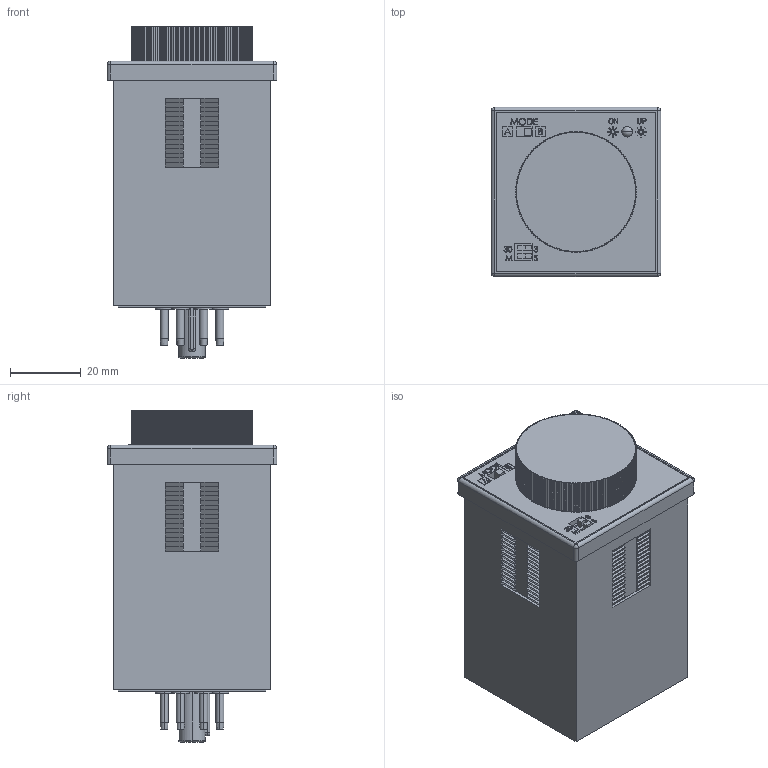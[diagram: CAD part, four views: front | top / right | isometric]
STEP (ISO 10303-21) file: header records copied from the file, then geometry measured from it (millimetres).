
FILE_DESCRIPTION (( 'STEP AP203' ), '1' );
FILE_NAME ('TA-8B.STEP', '2019-02-13T20:29:06', ( '' ), ( '' ), 'SwSTEP 2.0', 'SolidWorks 2012', '' );
FILE_SCHEMA (( 'CONFIG_CONTROL_DESIGN' ));
Products named in the file (1): TA-8B
Bounding box: 47.8 x 47.8 x 93.6 mm (x, y, z)
Volume: 142449.7 mm3; surface area: 23808.7 mm2
Topology: 1 solids, 1 shells, 1786 faces, 4492 edges, 2824 vertices
Faces by surface type: plane 1037, cylinder 505, bspline 216, cone 16, sphere 8, torus 4
Entity records: 65641 total; most frequent: CARTESIAN_POINT 23479, ORIENTED_EDGE 8968, DIRECTION 8313, EDGE_CURVE 4484, LINE 2931, VECTOR 2931, VERTEX_POINT 2822, AXIS2_PLACEMENT_3D 2691
